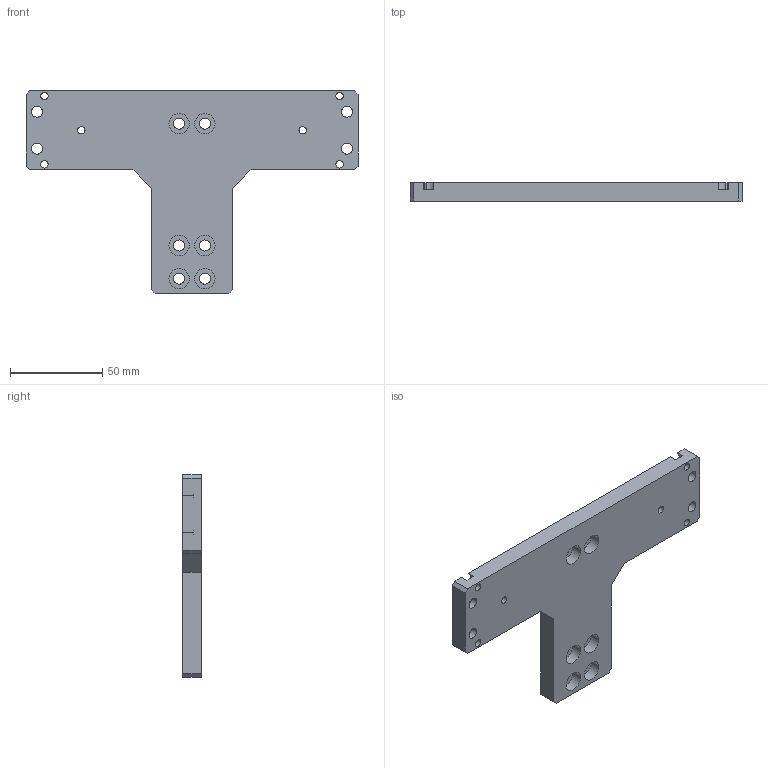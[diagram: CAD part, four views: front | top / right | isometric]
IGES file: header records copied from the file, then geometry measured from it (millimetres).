
Start section:  PTC IGES file: k46-k46m-st.igs
Global section: file name: k46-k46m-st.igs; native system: Pro/ENGINEER by Parametric Technology Corporation; preprocessor: 2008230; author: Owner; organization: Unknown; date: 20121211.144611; units: millimetre
Bounding box: 180 x 10 x 110 mm (x, y, z)
Surface area: 30109.2 mm2 (no closed solid volume)
Topology: 0 solids, 0 shells, 98 faces, 528 edges, 528 vertices
Faces by surface type: revolution 64, bspline 34
